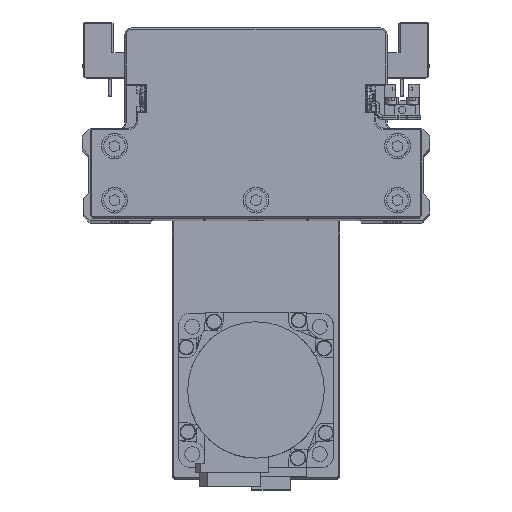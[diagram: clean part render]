
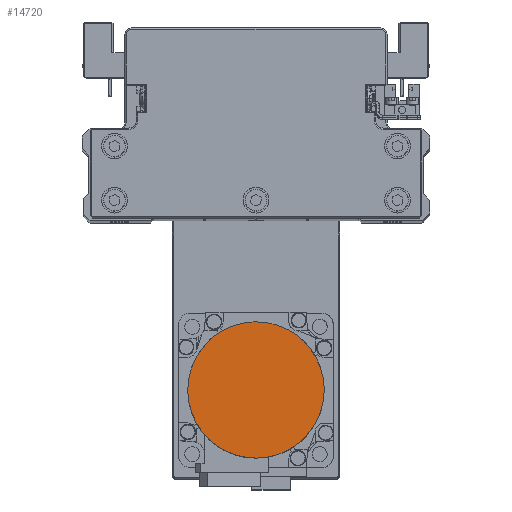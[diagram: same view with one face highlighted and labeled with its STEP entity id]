
A CAD part, top view. The second image highlights one B-rep face of the part: STEP entity #14720.
In plain terms, the highlighted planar face has unit normal (0, 0, 1) as drawn and (0, 0, -1) by its records, which use the part's own axes.
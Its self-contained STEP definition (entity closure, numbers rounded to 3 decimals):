
#263 = CARTESIAN_POINT ( 'NONE',  ( 23.819, 11.744, -109.7 ) ) ;
#464 = CARTESIAN_POINT ( 'NONE',  ( -3.469, 26.329, -109.7 ) ) ;
#630 = CARTESIAN_POINT ( 'NONE',  ( -25.147, -8.539, -109.7 ) ) ;
#661 = CARTESIAN_POINT ( 'NONE',  ( -26.329, 3.469, -109.7 ) ) ;
#848 = CARTESIAN_POINT ( 'NONE',  ( 1.734, -26.5, -109.7 ) ) ;
#1048 = CARTESIAN_POINT ( 'NONE',  ( 25.652, -6.871, -109.7 ) ) ;
#2192 = DIRECTION ( 'NONE',  ( 1., 0., 0. ) ) ;
#3307 = CARTESIAN_POINT ( 'NONE',  ( 26.329, 3.469, -109.7 ) ) ;
#3527 = CARTESIAN_POINT ( 'NONE',  ( 3.469, 26.329, -109.7 ) ) ;
#3703 = CARTESIAN_POINT ( 'NONE',  ( -26.5, -1.734, -109.7 ) ) ;
#3732 = CARTESIAN_POINT ( 'NONE',  ( -23.819, 11.744, -109.7 ) ) ;
#3789 = VERTEX_POINT ( 'NONE', #31322 ) ;
#3893 = CARTESIAN_POINT ( 'NONE',  ( -6.871, -25.652, -109.7 ) ) ;
#4106 = CARTESIAN_POINT ( 'NONE',  ( 22.998, -13.28, -109.7 ) ) ;
#5243 = PLANE ( 'NONE',  #15917 ) ;
#6562 = CARTESIAN_POINT ( 'NONE',  ( 11.744, 23.819, -109.7 ) ) ;
#6778 = CARTESIAN_POINT ( 'NONE',  ( -19.965, 17.512, -109.7 ) ) ;
#6949 = CARTESIAN_POINT ( 'NONE',  ( -13.28, -22.998, -109.7 ) ) ;
#7132 = CARTESIAN_POINT ( 'NONE',  ( 17.512, -19.965, -109.7 ) ) ;
#7955 = ORIENTED_EDGE ( 'NONE', *, *, #18003, .F. ) ;
#8034 = ORIENTED_EDGE ( 'NONE', *, *, #10267, .F. ) ;
#9432 = CARTESIAN_POINT ( 'NONE',  ( 26.5, 0., -109.7 ) ) ;
#9633 = CARTESIAN_POINT ( 'NONE',  ( 17.512, 19.965, -109.7 ) ) ;
#9843 = CARTESIAN_POINT ( 'NONE',  ( -13.28, 22.998, -109.7 ) ) ;
#10027 = CARTESIAN_POINT ( 'NONE',  ( -19.965, -17.512, -109.7 ) ) ;
#10222 = CARTESIAN_POINT ( 'NONE',  ( 11.744, -23.819, -109.7 ) ) ;
#10259 = VERTEX_POINT ( 'NONE', #9432 ) ;
#10267 = EDGE_CURVE ( 'NONE', #10259, #3789, #25863, .T. ) ;
#12710 = CARTESIAN_POINT ( 'NONE',  ( 22.998, 13.28, -109.7 ) ) ;
#12913 = CARTESIAN_POINT ( 'NONE',  ( -6.871, 25.652, -109.7 ) ) ;
#13086 = CARTESIAN_POINT ( 'NONE',  ( -23.819, -11.744, -109.7 ) ) ;
#13113 = CARTESIAN_POINT ( 'NONE',  ( -26.5, 1.734, -109.7 ) ) ;
#13297 = CARTESIAN_POINT ( 'NONE',  ( 3.469, -26.329, -109.7 ) ) ;
#13496 = CARTESIAN_POINT ( 'NONE',  ( 26.329, -3.469, -109.7 ) ) ;
#14720 = ADVANCED_FACE ( 'NONE', ( #33189 ), #5243, .F. ) ;
#15773 = CARTESIAN_POINT ( 'NONE',  ( 25.652, 6.871, -109.7 ) ) ;
#15917 = AXIS2_PLACEMENT_3D ( 'NONE', #17707, #30142, #2192 ) ;
#15988 = CARTESIAN_POINT ( 'NONE',  ( 1.734, 26.5, -109.7 ) ) ;
#16155 = CARTESIAN_POINT ( 'NONE',  ( -26.329, -3.469, -109.7 ) ) ;
#16186 = CARTESIAN_POINT ( 'NONE',  ( -25.147, 8.539, -109.7 ) ) ;
#16358 = CARTESIAN_POINT ( 'NONE',  ( -3.469, -26.329, -109.7 ) ) ;
#16569 = CARTESIAN_POINT ( 'NONE',  ( 23.819, -11.744, -109.7 ) ) ;
#17707 = CARTESIAN_POINT ( 'NONE',  ( 0., 0., -109.7 ) ) ;
#18003 = EDGE_CURVE ( 'NONE', #3789, #10259, #23624, .T. ) ;
#18823 = CARTESIAN_POINT ( 'NONE',  ( 26.5, 0., -109.7 ) ) ;
#19040 = CARTESIAN_POINT ( 'NONE',  ( 8.539, 25.147, -109.7 ) ) ;
#19253 = CARTESIAN_POINT ( 'NONE',  ( -21.07, 16.165, -109.7 ) ) ;
#19418 = CARTESIAN_POINT ( 'NONE',  ( -11.744, -23.819, -109.7 ) ) ;
#19615 = CARTESIAN_POINT ( 'NONE',  ( 19.965, -17.512, -109.7 ) ) ;
#22089 = CARTESIAN_POINT ( 'NONE',  ( 16.165, 21.07, -109.7 ) ) ;
#22311 = CARTESIAN_POINT ( 'NONE',  ( -16.165, 21.07, -109.7 ) ) ;
#22487 = CARTESIAN_POINT ( 'NONE',  ( -17.512, -19.965, -109.7 ) ) ;
#22680 = CARTESIAN_POINT ( 'NONE',  ( 13.28, -22.998, -109.7 ) ) ;
#23624 = B_SPLINE_CURVE_WITH_KNOTS ( 'NONE', 3,
 ( #31650, #3703, #16155, #28577, #630, #13086, #25530, #37964, #10027, #22487, #34896, #6949, #19418, #31839, #3893, #16358, #28786, #848, #13297, #25736, #38168, #10222, #22680, #35084, #7132, #19615, #32048, #4106, #16569, #28990, #1048, #13496, #25929, #38362 ),
 .UNSPECIFIED., .F., .F.,
 ( 4, 2, 2, 2, 2, 2, 2, 2, 2, 2, 2, 2, 2, 2, 2, 2, 4 ),
 ( 0., 0.063, 0.125, 0.188, 0.25, 0.312, 0.375, 0.437, 0.5, 0.562, 0.625, 0.687, 0.75, 0.813, 0.875, 0.938, 1. ),
 .UNSPECIFIED. ) ;
#25150 = CARTESIAN_POINT ( 'NONE',  ( 21.07, 16.165, -109.7 ) ) ;
#25343 = CARTESIAN_POINT ( 'NONE',  ( -8.539, 25.147, -109.7 ) ) ;
#25530 = CARTESIAN_POINT ( 'NONE',  ( -22.998, -13.28, -109.7 ) ) ;
#25558 = CARTESIAN_POINT ( 'NONE',  ( -26.5, 0., -109.7 ) ) ;
#25736 = CARTESIAN_POINT ( 'NONE',  ( 6.871, -25.652, -109.7 ) ) ;
#25863 = B_SPLINE_CURVE_WITH_KNOTS ( 'NONE', 3,
 ( #18823, #31262, #3307, #15773, #28208, #263, #12710, #25150, #37577, #9633, #22089, #34504, #6562, #19040, #31481, #3527, #15988, #28410, #464, #12913, #25343, #37774, #9843, #22311, #34723, #6778, #19253, #31681, #3732, #16186, #28609, #661, #13113, #25558 ),
 .UNSPECIFIED., .F., .F.,
 ( 4, 2, 2, 2, 2, 2, 2, 2, 2, 2, 2, 2, 2, 2, 2, 2, 4 ),
 ( 0., 0.062, 0.125, 0.187, 0.25, 0.312, 0.375, 0.437, 0.5, 0.562, 0.625, 0.687, 0.75, 0.813, 0.875, 0.938, 1. ),
 .UNSPECIFIED. ) ;
#25929 = CARTESIAN_POINT ( 'NONE',  ( 26.5, -1.734, -109.7 ) ) ;
#28208 = CARTESIAN_POINT ( 'NONE',  ( 25.147, 8.539, -109.7 ) ) ;
#28410 = CARTESIAN_POINT ( 'NONE',  ( -1.734, 26.5, -109.7 ) ) ;
#28577 = CARTESIAN_POINT ( 'NONE',  ( -25.652, -6.871, -109.7 ) ) ;
#28609 = CARTESIAN_POINT ( 'NONE',  ( -25.652, 6.871, -109.7 ) ) ;
#28786 = CARTESIAN_POINT ( 'NONE',  ( -1.734, -26.5, -109.7 ) ) ;
#28990 = CARTESIAN_POINT ( 'NONE',  ( 25.147, -8.539, -109.7 ) ) ;
#30142 = DIRECTION ( 'NONE',  ( 0., 0., 1. ) ) ;
#31262 = CARTESIAN_POINT ( 'NONE',  ( 26.5, 1.734, -109.7 ) ) ;
#31322 = CARTESIAN_POINT ( 'NONE',  ( -26.5, 0., -109.7 ) ) ;
#31481 = CARTESIAN_POINT ( 'NONE',  ( 6.871, 25.652, -109.7 ) ) ;
#31650 = CARTESIAN_POINT ( 'NONE',  ( -26.5, 0., -109.7 ) ) ;
#31681 = CARTESIAN_POINT ( 'NONE',  ( -22.998, 13.28, -109.7 ) ) ;
#31839 = CARTESIAN_POINT ( 'NONE',  ( -8.539, -25.147, -109.7 ) ) ;
#32048 = CARTESIAN_POINT ( 'NONE',  ( 21.07, -16.165, -109.7 ) ) ;
#33189 = FACE_OUTER_BOUND ( 'NONE', #36586, .T. ) ;
#34504 = CARTESIAN_POINT ( 'NONE',  ( 13.28, 22.998, -109.7 ) ) ;
#34723 = CARTESIAN_POINT ( 'NONE',  ( -17.512, 19.965, -109.7 ) ) ;
#34896 = CARTESIAN_POINT ( 'NONE',  ( -16.165, -21.07, -109.7 ) ) ;
#35084 = CARTESIAN_POINT ( 'NONE',  ( 16.165, -21.07, -109.7 ) ) ;
#36586 = EDGE_LOOP ( 'NONE', ( #8034, #7955 ) ) ;
#37577 = CARTESIAN_POINT ( 'NONE',  ( 19.965, 17.512, -109.7 ) ) ;
#37774 = CARTESIAN_POINT ( 'NONE',  ( -11.744, 23.819, -109.7 ) ) ;
#37964 = CARTESIAN_POINT ( 'NONE',  ( -21.07, -16.165, -109.7 ) ) ;
#38168 = CARTESIAN_POINT ( 'NONE',  ( 8.539, -25.147, -109.7 ) ) ;
#38362 = CARTESIAN_POINT ( 'NONE',  ( 26.5, 0., -109.7 ) ) ;
